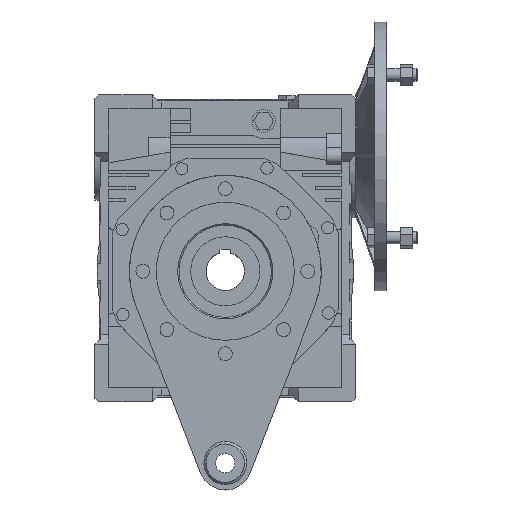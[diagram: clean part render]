
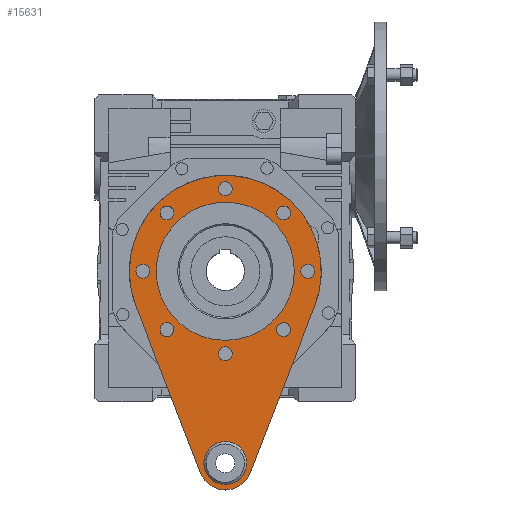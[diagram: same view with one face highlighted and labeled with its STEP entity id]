
A CAD part, top view. The second image highlights one B-rep face of the part: STEP entity #15631.
In plain terms, the highlighted planar face has unit normal (0, 0, 1).
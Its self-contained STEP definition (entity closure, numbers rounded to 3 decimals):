
#1748=LINE('',#25321,#3360);
#1753=LINE('',#25335,#3365);
#3360=VECTOR('',#20759,1000.);
#3365=VECTOR('',#20772,1000.);
#7152=ORIENTED_EDGE('',*,*,#9693,.T.);
#7153=ORIENTED_EDGE('',*,*,#9694,.T.);
#7154=ORIENTED_EDGE('',*,*,#9695,.T.);
#7155=ORIENTED_EDGE('',*,*,#9696,.T.);
#7156=ORIENTED_EDGE('',*,*,#9697,.T.);
#7157=ORIENTED_EDGE('',*,*,#9698,.T.);
#7158=ORIENTED_EDGE('',*,*,#9699,.T.);
#7159=ORIENTED_EDGE('',*,*,#9700,.T.);
#7160=ORIENTED_EDGE('',*,*,#9701,.T.);
#7161=ORIENTED_EDGE('',*,*,#9689,.F.);
#7162=ORIENTED_EDGE('',*,*,#9681,.T.);
#7163=ORIENTED_EDGE('',*,*,#9685,.T.);
#7164=ORIENTED_EDGE('',*,*,#9688,.T.);
#7165=ORIENTED_EDGE('',*,*,#9692,.T.);
#9681=EDGE_CURVE('',#11300,#11299,#1748,.T.);
#9685=EDGE_CURVE('',#11299,#11302,#11935,.T.);
#9688=EDGE_CURVE('',#11302,#11304,#1753,.T.);
#9689=EDGE_CURVE('',#11305,#11305,#11936,.T.);
#9692=EDGE_CURVE('',#11304,#11300,#11939,.T.);
#9693=EDGE_CURVE('',#11307,#11307,#11940,.F.);
#9694=EDGE_CURVE('',#11308,#11308,#11941,.F.);
#9695=EDGE_CURVE('',#11309,#11309,#11942,.F.);
#9696=EDGE_CURVE('',#11310,#11310,#11943,.F.);
#9697=EDGE_CURVE('',#11311,#11311,#11944,.F.);
#9698=EDGE_CURVE('',#11312,#11312,#11945,.F.);
#9699=EDGE_CURVE('',#11313,#11313,#11946,.F.);
#9700=EDGE_CURVE('',#11314,#11314,#11947,.F.);
#9701=EDGE_CURVE('',#11315,#11315,#11948,.T.);
#11299=VERTEX_POINT('',#25320);
#11300=VERTEX_POINT('',#25322);
#11302=VERTEX_POINT('',#25328);
#11304=VERTEX_POINT('',#25334);
#11305=VERTEX_POINT('',#25338);
#11307=VERTEX_POINT('',#25346);
#11308=VERTEX_POINT('',#25348);
#11309=VERTEX_POINT('',#25350);
#11310=VERTEX_POINT('',#25352);
#11311=VERTEX_POINT('',#25354);
#11312=VERTEX_POINT('',#25356);
#11313=VERTEX_POINT('',#25358);
#11314=VERTEX_POINT('',#25360);
#11315=VERTEX_POINT('',#25362);
#11935=CIRCLE('',#16919,125.);
#11936=CIRCLE('',#16922,90.);
#11939=CIRCLE('',#16926,35.);
#11940=CIRCLE('',#16928,9.);
#11941=CIRCLE('',#16929,9.);
#11942=CIRCLE('',#16930,9.);
#11943=CIRCLE('',#16931,9.);
#11944=CIRCLE('',#16932,9.);
#11945=CIRCLE('',#16933,9.);
#11946=CIRCLE('',#16934,9.);
#11947=CIRCLE('',#16935,9.);
#11948=CIRCLE('',#16936,28.);
#12893=EDGE_LOOP('',(#7152));
#12894=EDGE_LOOP('',(#7153));
#12895=EDGE_LOOP('',(#7154));
#12896=EDGE_LOOP('',(#7155));
#12897=EDGE_LOOP('',(#7156));
#12898=EDGE_LOOP('',(#7157));
#12899=EDGE_LOOP('',(#7158));
#12900=EDGE_LOOP('',(#7159));
#12901=EDGE_LOOP('',(#7160));
#12902=EDGE_LOOP('',(#7161));
#12903=EDGE_LOOP('',(#7162,#7163,#7164,#7165));
#14024=FACE_BOUND('',#12893,.T.);
#14025=FACE_BOUND('',#12894,.T.);
#14026=FACE_BOUND('',#12895,.T.);
#14027=FACE_BOUND('',#12896,.T.);
#14028=FACE_BOUND('',#12897,.T.);
#14029=FACE_BOUND('',#12898,.T.);
#14030=FACE_BOUND('',#12899,.T.);
#14031=FACE_BOUND('',#12900,.T.);
#14032=FACE_BOUND('',#12901,.T.);
#14033=FACE_BOUND('',#12902,.T.);
#14034=FACE_BOUND('',#12903,.T.);
#14807=PLANE('',#16927);
#15631=ADVANCED_FACE('',(#14024,#14025,#14026,#14027,#14028,#14029,#14030,
#14031,#14032,#14033,#14034),#14807,.T.);
#16919=AXIS2_PLACEMENT_3D('',#25329,#20766,#20767);
#16922=AXIS2_PLACEMENT_3D('',#25337,#20775,#20776);
#16926=AXIS2_PLACEMENT_3D('',#25343,#20783,#20784);
#16927=AXIS2_PLACEMENT_3D('',#25344,#20785,#20786);
#16928=AXIS2_PLACEMENT_3D('',#25345,#20787,#20788);
#16929=AXIS2_PLACEMENT_3D('',#25347,#20789,#20790);
#16930=AXIS2_PLACEMENT_3D('',#25349,#20791,#20792);
#16931=AXIS2_PLACEMENT_3D('',#25351,#20793,#20794);
#16932=AXIS2_PLACEMENT_3D('',#25353,#20795,#20796);
#16933=AXIS2_PLACEMENT_3D('',#25355,#20797,#20798);
#16934=AXIS2_PLACEMENT_3D('',#25357,#20799,#20800);
#16935=AXIS2_PLACEMENT_3D('',#25359,#20801,#20802);
#16936=AXIS2_PLACEMENT_3D('',#25361,#20803,#20804);
#20759=DIRECTION('',(0.36,0.933,0.));
#20766=DIRECTION('',(0.,0.,1.));
#20767=DIRECTION('',(1.,0.,0.));
#20772=DIRECTION('',(0.36,-0.933,0.));
#20775=DIRECTION('',(0.,0.,1.));
#20776=DIRECTION('',(1.,0.,0.));
#20783=DIRECTION('',(0.,0.,1.));
#20784=DIRECTION('',(1.,0.,0.));
#20785=DIRECTION('',(0.,0.,1.));
#20786=DIRECTION('',(1.,0.,0.));
#20787=DIRECTION('',(0.,0.,1.));
#20788=DIRECTION('',(1.,0.,0.));
#20789=DIRECTION('',(0.,0.,1.));
#20790=DIRECTION('',(1.,0.,0.));
#20791=DIRECTION('',(0.,0.,1.));
#20792=DIRECTION('',(1.,0.,0.));
#20793=DIRECTION('',(0.,0.,1.));
#20794=DIRECTION('',(1.,0.,0.));
#20795=DIRECTION('',(0.,0.,1.));
#20796=DIRECTION('',(1.,0.,0.));
#20797=DIRECTION('',(0.,0.,1.));
#20798=DIRECTION('',(1.,0.,0.));
#20799=DIRECTION('',(0.,0.,1.));
#20800=DIRECTION('',(1.,0.,0.));
#20801=DIRECTION('',(0.,0.,1.));
#20802=DIRECTION('',(1.,0.,0.));
#20803=DIRECTION('',(0.,0.,-1.));
#20804=DIRECTION('',(-1.,0.,0.));
#25320=CARTESIAN_POINT('',(116.619,-45.,3.));
#25321=CARTESIAN_POINT('',(32.653,-262.6,3.));
#25322=CARTESIAN_POINT('',(32.653,-262.6,3.));
#25328=CARTESIAN_POINT('',(-116.619,-45.,3.));
#25329=CARTESIAN_POINT('',(0.,0.,3.));
#25334=CARTESIAN_POINT('',(-32.653,-262.6,3.));
#25335=CARTESIAN_POINT('',(-116.619,-45.,3.));
#25337=CARTESIAN_POINT('',(0.,0.,3.));
#25338=CARTESIAN_POINT('',(90.,0.,3.));
#25343=CARTESIAN_POINT('',(0.,-250.,3.));
#25344=CARTESIAN_POINT('',(0.,0.,3.));
#25345=CARTESIAN_POINT('',(-107.5,0.,3.));
#25346=CARTESIAN_POINT('',(-98.5,0.,3.));
#25347=CARTESIAN_POINT('',(-76.014,-76.014,3.));
#25348=CARTESIAN_POINT('',(-67.014,-76.014,3.));
#25349=CARTESIAN_POINT('',(0.,-107.5,3.));
#25350=CARTESIAN_POINT('',(9.,-107.5,3.));
#25351=CARTESIAN_POINT('',(76.014,-76.014,3.));
#25352=CARTESIAN_POINT('',(85.014,-76.014,3.));
#25353=CARTESIAN_POINT('',(107.5,0.,3.));
#25354=CARTESIAN_POINT('',(116.5,0.,3.));
#25355=CARTESIAN_POINT('',(76.014,76.014,3.));
#25356=CARTESIAN_POINT('',(85.014,76.014,3.));
#25357=CARTESIAN_POINT('',(-76.014,76.014,3.));
#25358=CARTESIAN_POINT('',(-67.014,76.014,3.));
#25359=CARTESIAN_POINT('',(0.,107.5,3.));
#25360=CARTESIAN_POINT('',(9.,107.5,3.));
#25361=CARTESIAN_POINT('',(0.,-250.,3.));
#25362=CARTESIAN_POINT('',(-28.,-250.,3.));
